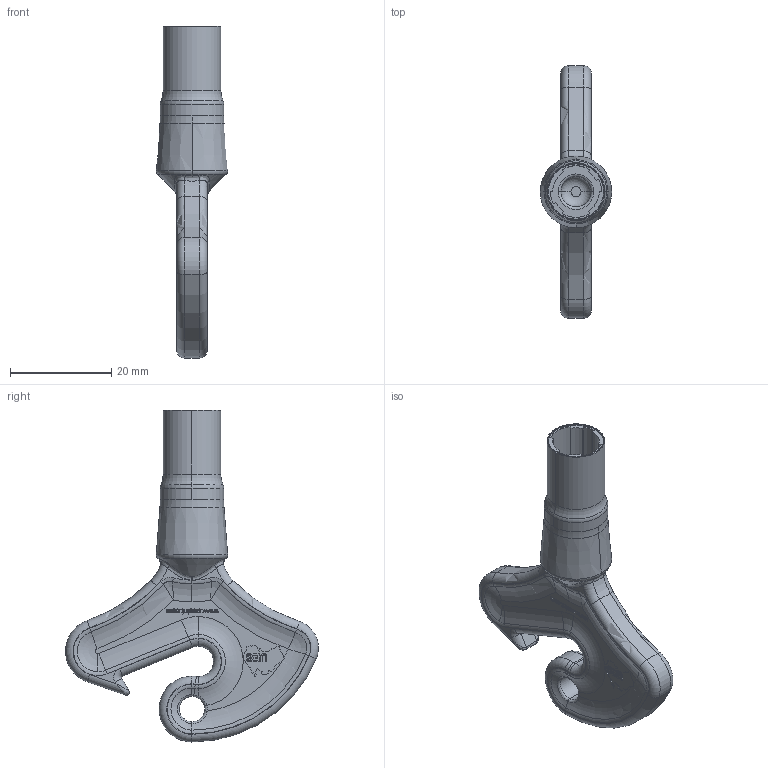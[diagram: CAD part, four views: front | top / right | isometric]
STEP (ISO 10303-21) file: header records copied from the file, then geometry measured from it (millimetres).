
FILE_DESCRIPTION (( 'STEP AP214' ), '1' );
FILE_NAME ('E3K8R.STEP', '2020-11-02T23:36:59', ( '' ), ( '' ), 'SwSTEP 2.0', 'SolidWorks 2018', '' );
FILE_SCHEMA (( 'AUTOMOTIVE_DESIGN' ));
Length unit declared in the file: millimetre
Products named in the file (1): E3K8R
Bounding box: 14.11 x 49.97 x 65.6 mm (x, y, z)
Volume: 7504.6 mm3; surface area: 4656.5 mm2
Topology: 1 solids, 1 shells, 498 faces, 1321 edges, 838 vertices
Faces by surface type: plane 238, bspline 122, torus 92, cylinder 42, cone 4
Entity records: 21767 total; most frequent: CARTESIAN_POINT 10122, ORIENTED_EDGE 2626, DIRECTION 2078, EDGE_CURVE 1313, VERTEX_POINT 838, VECTOR 762, LINE 762, AXIS2_PLACEMENT_3D 658
